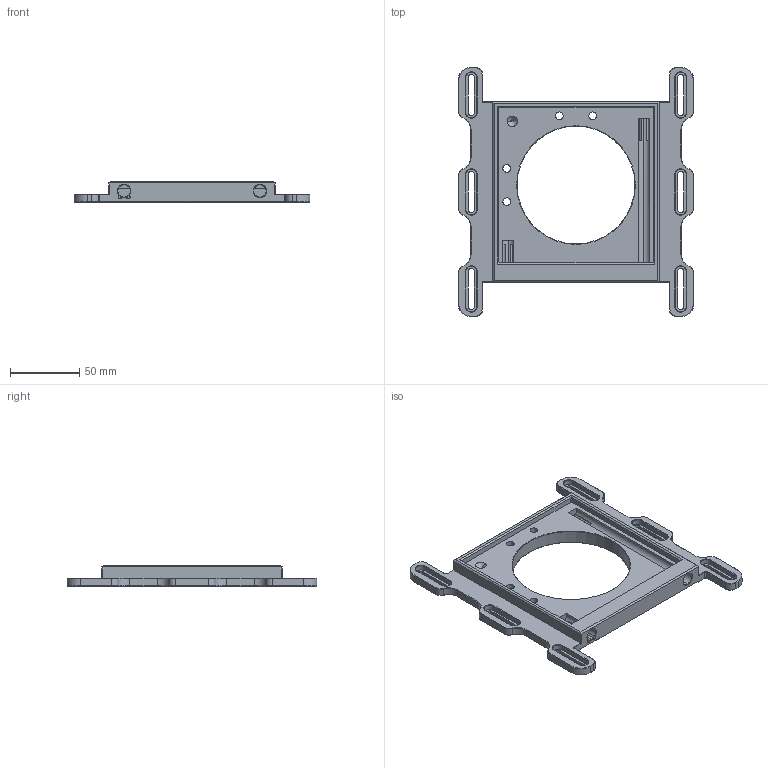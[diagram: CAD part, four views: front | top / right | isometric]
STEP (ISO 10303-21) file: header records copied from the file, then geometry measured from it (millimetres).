
FILE_DESCRIPTION (( 'STEP AP214' ), '1' );
FILE_NAME ('三英寸定板第一版.STEP', '2026-10-10T09:16:40', ( '' ), ( '' ), 'SwSTEP 2.0', 'SolidWorks 2024', '' );
FILE_SCHEMA (( 'AUTOMOTIVE_DESIGN' ));
Length unit declared in the file: millimetre
Products named in the file (1): 三英寸定板第一版
Bounding box: 170 x 180 x 15 mm (x, y, z)
Volume: 138524.6 mm3; surface area: 50930.7 mm2
Topology: 1 solids, 1 shells, 352 faces, 883 edges, 533 vertices
Faces by surface type: plane 171, cone 98, cylinder 83
Entity records: 10456 total; most frequent: DIRECTION 1851, CARTESIAN_POINT 1851, ORIENTED_EDGE 1762, EDGE_CURVE 881, AXIS2_PLACEMENT_3D 645, VECTOR 561, LINE 561, VERTEX_POINT 533
